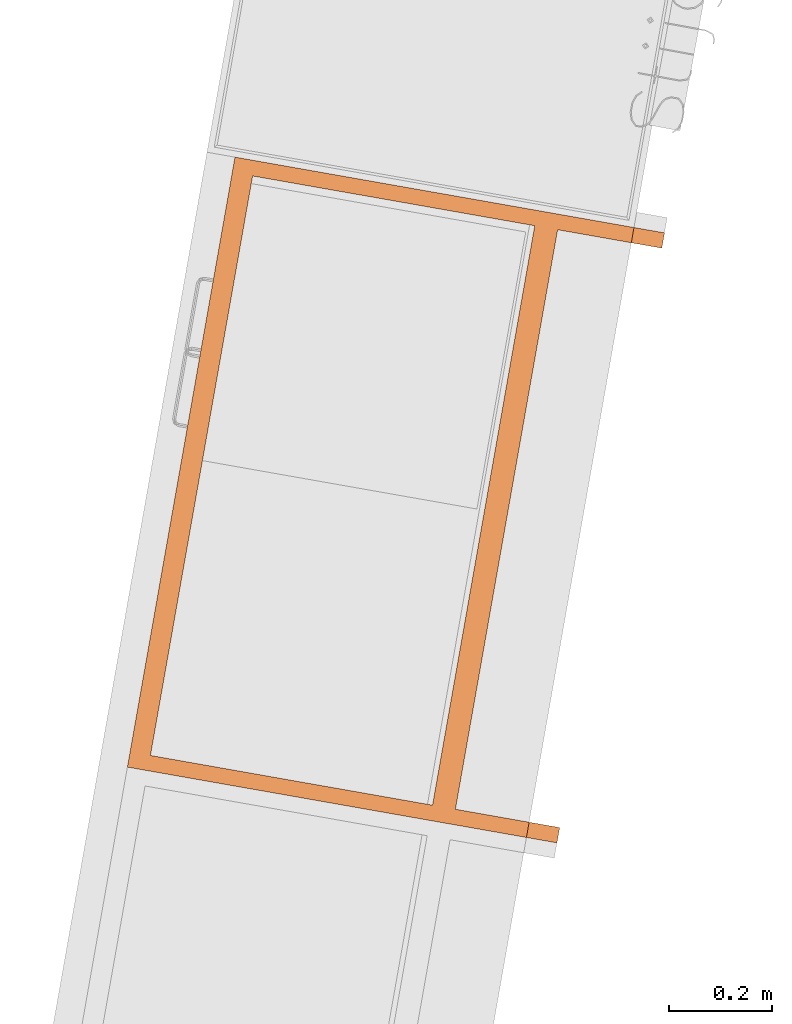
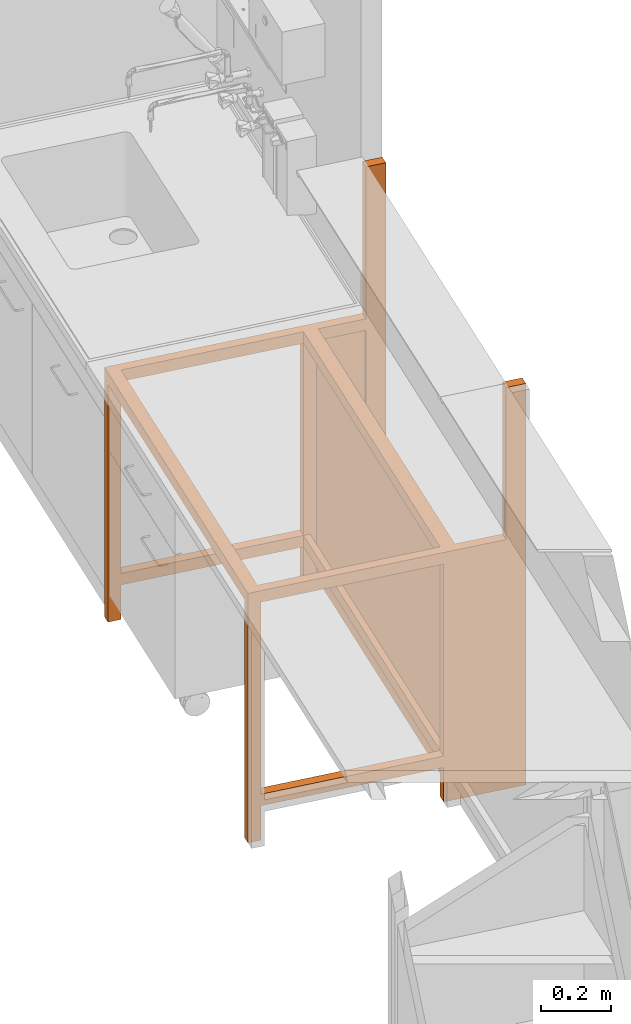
# One storey, part 29 of 43: 1 proxy.
"""IFC2X3 building model written with IfcOpenShell, lengths in metres."""

from ifc_helpers import new_model, entity, si_unit, converted_unit, derived_unit, direction, frame, origin, place, context, subcontext, project, spatial, faceted_brep, source, transform, mapped, material, material_list, type_object, type_shapes, element, save


model = new_model("IFC2X3")

# Units and contexts
model_context = context("Model", 3, precision=1e-05, world=origin(), true_north=direction((6.12303176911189e-17, 1.0)))
body_context = subcontext(model_context, "Body", "Model", "MODEL_VIEW")
ifc_project = project(units=[si_unit("LENGTHUNIT", "METRE"), si_unit("AREAUNIT", "SQUARE_METRE"), si_unit("VOLUMEUNIT", "CUBIC_METRE"), converted_unit("PLANEANGLEUNIT", "DEGREE", entity("IfcRatioMeasure", 0.0174532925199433), si_unit("PLANEANGLEUNIT", "RADIAN"), dimensions=[0, 0, 0, 0, 0, 0, 0]), si_unit("MASSUNIT", "GRAM", prefix="KILO"), derived_unit("MASSDENSITYUNIT", [(si_unit("MASSUNIT", "GRAM", prefix="KILO"), 1), (si_unit("LENGTHUNIT", "METRE"), -3)]), derived_unit("MOMENTOFINERTIAUNIT", [(si_unit("LENGTHUNIT", "METRE"), 4)]), si_unit("TIMEUNIT", "SECOND"), si_unit("FREQUENCYUNIT", "HERTZ"), si_unit("THERMODYNAMICTEMPERATUREUNIT", "DEGREE_CELSIUS"), derived_unit("THERMALTRANSMITTANCEUNIT", [(si_unit("MASSUNIT", "GRAM", prefix="KILO"), 1), (si_unit("THERMODYNAMICTEMPERATUREUNIT", "KELVIN"), -1), (si_unit("TIMEUNIT", "SECOND"), -3)]), derived_unit("VOLUMETRICFLOWRATEUNIT", [(si_unit("LENGTHUNIT", "METRE"), 3), (si_unit("TIMEUNIT", "SECOND"), -1)]), si_unit("ELECTRICCURRENTUNIT", "AMPERE"), si_unit("ELECTRICVOLTAGEUNIT", "VOLT"), si_unit("POWERUNIT", "WATT"), si_unit("FORCEUNIT", "NEWTON", prefix="KILO"), si_unit("ILLUMINANCEUNIT", "LUX"), si_unit("LUMINOUSFLUXUNIT", "LUMEN"), si_unit("LUMINOUSINTENSITYUNIT", "CANDELA"), derived_unit("USERDEFINED", [(si_unit("MASSUNIT", "GRAM", prefix="KILO"), -1), (si_unit("LENGTHUNIT", "METRE"), -2), (si_unit("TIMEUNIT", "SECOND"), 3), (si_unit("LUMINOUSFLUXUNIT", "LUMEN"), 1)]), derived_unit("LINEARVELOCITYUNIT", [(si_unit("LENGTHUNIT", "METRE"), 1), (si_unit("TIMEUNIT", "SECOND"), -1)]), si_unit("PRESSUREUNIT", "PASCAL"), derived_unit("USERDEFINED", [(si_unit("LENGTHUNIT", "METRE"), -2), (si_unit("MASSUNIT", "GRAM", prefix="KILO"), 1), (si_unit("TIMEUNIT", "SECOND"), -2)]), derived_unit("LINEARFORCEUNIT", [(si_unit("MASSUNIT", "GRAM", prefix="KILO"), 1), (si_unit("LENGTHUNIT", "METRE"), 1), (si_unit("TIMEUNIT", "SECOND"), -2), (si_unit("LENGTHUNIT", "METRE"), -1)]), derived_unit("PLANARFORCEUNIT", [(si_unit("MASSUNIT", "GRAM", prefix="KILO"), 1), (si_unit("LENGTHUNIT", "METRE"), 1), (si_unit("TIMEUNIT", "SECOND"), -2), (si_unit("LENGTHUNIT", "METRE"), -2)])], contexts=[model_context])

# Site, building, storey
site_placement = place(None, origin())
site = spatial("IfcSite", under=ifc_project, at=site_placement, Name="Default", CompositionType="ELEMENT")
building_placement = place(site_placement, origin())
building = spatial("IfcBuilding", under=site, at=building_placement, CompositionType="ELEMENT")
storey_placement = place(building_placement, frame((0.0, 0.0, 3.0)))
storey = spatial("IfcBuildingStorey", under=building, at=storey_placement, Name="01 OG", CompositionType="ELEMENT", Elevation=3.0)

# Proxy
ifc_material_1 = material(Name="dh_EZ blau")
ifc_material_2 = material(Name="Stopper")
ifc_material_3 = material(Name="dh_Weiß")
ifc_material_list_1 = material_list([ifc_material_1, ifc_material_2, ifc_material_3])
ifc_material_4 = material(Name="<Unnamed>")
ifc_material_list_2 = material_list([ifc_material_3, ifc_material_4, ifc_material_1])
building_element_proxy_type = type_object("IfcBuildingElementProxyType", Name="dh_Energiezelle ST:EZ_ST120 ohne WHS WHA", PredefinedType="NOTDEFINED", material=ifc_material_list_2)
shared_shape = source(origin(), body_context, "Body", "Brep", [
    faceted_brep([(0.57, 0.0599999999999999, 1.4), (0.57, 0.0, 1.4), (0.6, 0.0, 1.4), (0.6, 0.0599999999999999, 1.4), (0.57, 0.0599999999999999, 0.0), (0.57, 0.0, 0.0), (0.6, 0.0, 0.0), (0.6, 0.0599999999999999, 0.0)], [[[0, 1, 2, 3]], [[1, 0, 4, 5]], [[2, 1, 5, 6]], [[3, 2, 6, 7]], [[0, 3, 7, 4]], [[4, 7, 6, 5]]]),
    faceted_brep([(-0.57, 0.0600000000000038, 0.0), (-0.57, 0.0, 0.0), (-0.6, 0.0, 0.0), (-0.6, 0.0600000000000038, 0.0), (-0.6, 0.0600000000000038, 1.4), (-0.57, 0.0600000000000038, 1.4), (-0.6, 0.0, 1.4), (-0.57, 0.0, 1.4)], [[[0, 1, 2, 3]], [[4, 5, 0, 3]], [[6, 4, 3, 2]], [[7, 6, 2, 1]], [[5, 7, 1, 0]], [[5, 4, 6, 7]]]),
    faceted_brep([(-0.599999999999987, -0.150000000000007, 0.01), (-0.599999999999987, -0.190000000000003, 0.01), (-0.570000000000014, -0.190000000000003, 0.01), (-0.570000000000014, -0.150000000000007, 0.01), (-0.599999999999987, -0.150000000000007, 0.0), (-0.599999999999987, -0.190000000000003, 0.0), (-0.570000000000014, -0.190000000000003, 0.0), (-0.570000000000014, -0.150000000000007, 0.0)], [[[0, 1, 2, 3]], [[1, 0, 4, 5]], [[2, 1, 5, 6]], [[3, 2, 6, 7]], [[0, 3, 7, 4]], [[4, 7, 6, 5]]]),
    faceted_brep([(-0.599999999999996, -0.745000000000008, 0.0), (-0.570000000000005, -0.745000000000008, 0.0), (-0.570000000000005, -0.785000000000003, 0.0), (-0.599999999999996, -0.785000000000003, 0.0), (-0.599999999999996, -0.785000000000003, 0.01), (-0.599999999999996, -0.745000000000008, 0.01), (-0.570000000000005, -0.785000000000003, 0.01), (-0.570000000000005, -0.745000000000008, 0.01)], [[[0, 1, 2, 3]], [[4, 5, 0, 3]], [[6, 4, 3, 2]], [[7, 6, 2, 1]], [[5, 7, 1, 0]], [[5, 4, 6, 7]]]),
    faceted_brep([(0.569999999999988, -0.190000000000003, 0.01), (0.569999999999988, -0.150000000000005, 0.01), (0.569999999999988, -0.150000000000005, 0.0), (0.569999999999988, -0.190000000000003, 0.0), (0.600000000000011, -0.190000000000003, 0.01), (0.600000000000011, -0.190000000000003, 0.0), (0.600000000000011, -0.150000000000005, 0.01), (0.600000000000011, -0.150000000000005, 0.0)], [[[0, 1, 2, 3]], [[4, 0, 3, 5]], [[6, 4, 5, 7]], [[1, 6, 7, 2]], [[2, 7, 5, 3]], [[1, 0, 4, 6]]]),
    faceted_brep([(0.569999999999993, -0.784999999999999, 0.01), (0.569999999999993, -0.744999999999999, 0.01), (0.569999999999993, -0.744999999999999, 0.0), (0.569999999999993, -0.784999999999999, 0.0), (0.600000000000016, -0.784999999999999, 0.01), (0.600000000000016, -0.784999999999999, 0.0), (0.600000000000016, -0.744999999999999, 0.01), (0.600000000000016, -0.744999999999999, 0.0)], [[[0, 1, 2, 3]], [[4, 0, 3, 5]], [[6, 4, 5, 7]], [[1, 6, 7, 2]], [[2, 7, 5, 3]], [[1, 0, 4, 6]]]),
    faceted_brep([(0.569999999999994, -0.150000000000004, 0.87), (0.569999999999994, -0.145000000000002, 0.87), (-0.570000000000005, -0.145000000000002, 0.87), (-0.570000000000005, -0.150000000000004, 0.87), (0.569999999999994, -0.150000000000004, 0.0), (-0.570000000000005, -0.150000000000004, 0.0), (-0.570000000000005, -0.145000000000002, 0.0), (0.569999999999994, -0.145000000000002, 0.0)], [[[0, 1, 2, 3]], [[4, 5, 6, 7]], [[0, 3, 5, 4]], [[3, 2, 6, 5]], [[2, 1, 7, 6]], [[1, 0, 4, 7]]]),
    faceted_brep([(-0.6, 0.0, 0.830000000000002), (-0.6, -0.150000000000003, 0.830000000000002), (-0.58, -0.150000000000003, 0.830000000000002), (-0.58, 0.0, 0.830000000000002), (-0.6, 0.0, 0.0), (-0.58, 0.0, 0.0), (-0.58, -0.150000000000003, 0.0), (-0.6, -0.150000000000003, 0.0)], [[[0, 1, 2, 3]], [[4, 5, 6, 7]], [[1, 0, 4, 7]], [[2, 1, 7, 6]], [[3, 2, 6, 5]], [[0, 3, 5, 4]]]),
    faceted_brep([(0.58, -0.150000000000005, 0.830000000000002), (0.58, 0.0, 0.830000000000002), (0.58, 0.0, 0.0), (0.58, -0.150000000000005, 0.0), (0.6, -0.150000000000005, 0.830000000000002), (0.6, -0.150000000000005, 0.0), (0.6, 0.0, 0.830000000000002), (0.6, 0.0, 0.0)], [[[0, 1, 2, 3]], [[4, 0, 3, 5]], [[6, 4, 5, 7]], [[1, 6, 7, 2]], [[2, 7, 5, 3]], [[1, 0, 4, 6]]]),
    faceted_brep([(-0.570000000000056, 0.0, 0.870000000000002), (-0.60000000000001, 0.0, 0.870000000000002), (-0.600000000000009, -0.784999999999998, 0.870000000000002), (0.599999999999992, -0.784999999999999, 0.869999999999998), (0.59999999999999, 0.0, 0.869999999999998), (0.569999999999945, 0.0, 0.869999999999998), (0.569999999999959, -0.150000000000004, 0.869999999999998), (-0.570000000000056, -0.150000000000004, 0.870000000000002), (-0.570000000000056, -0.744999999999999, 0.870000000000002), (-0.570000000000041, -0.190000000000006, 0.870000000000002), (0.569999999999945, -0.190000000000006, 0.869999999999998), (0.569999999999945, -0.744999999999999, 0.869999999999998), (-0.60000000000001, 0.0, 0.830000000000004), (-0.570000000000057, 0.0, 0.830000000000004), (-0.570000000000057, -0.150000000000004, 0.830000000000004), (-0.60000000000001, -0.150000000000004, 0.830000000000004), (-0.600000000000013, -0.150000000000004, 0.0100000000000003), (-0.600000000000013, -0.190000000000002, 0.0100000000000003), (-0.60000000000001, -0.190000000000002, 0.830000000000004), (-0.60000000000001, -0.744999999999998, 0.830000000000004), (-0.600000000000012, -0.744999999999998, 0.0100000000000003), (-0.600000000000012, -0.784999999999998, 0.0100000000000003), (0.569999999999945, 0.0, 0.83), (0.569999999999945, -0.150000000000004, 0.83), (0.59999999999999, 0.0, 0.83), (0.599999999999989, -0.784999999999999, 0.00999999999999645), (0.599999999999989, -0.744999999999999, 0.00999999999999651), (0.59999999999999, -0.744999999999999, 0.83), (0.59999999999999, -0.190000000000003, 0.83), (0.599999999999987, -0.190000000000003, 0.00999999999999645), (0.599999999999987, -0.150000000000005, 0.00999999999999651), (0.59999999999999, -0.150000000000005, 0.83), (-0.570000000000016, -0.150000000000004, 0.0100000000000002), (-0.570000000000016, -0.190000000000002, 0.0100000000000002), (-0.570000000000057, -0.190000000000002, 0.830000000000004), (0.569999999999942, -0.150000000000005, 0.00999999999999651), (0.569999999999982, -0.190000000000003, 0.00999999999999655), (0.569999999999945, -0.190000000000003, 0.83), (-0.570000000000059, -0.744999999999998, 0.0100000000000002), (-0.570000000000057, -0.744999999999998, 0.830000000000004), (-0.570000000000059, -0.784999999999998, 0.0100000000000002), (-0.570000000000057, -0.784999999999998, 0.830000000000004), (0.569999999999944, -0.784999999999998, 0.83), (0.569999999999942, -0.784999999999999, 0.00999999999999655), (0.569999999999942, -0.744999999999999, 0.00999999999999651), (0.569999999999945, -0.744999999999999, 0.83)], [[[0, 1, 2, 3, 4, 5, 6, 7], [8, 9, 10, 11]], [[12, 13, 14, 15]], [[1, 0, 13, 12]], [[1, 12, 15, 16, 17, 18, 19, 20, 21, 2]], [[13, 0, 7, 14]], [[5, 22, 23, 6]], [[24, 4, 3, 25, 26, 27, 28, 29, 30, 31]], [[5, 4, 24, 22]], [[32, 33, 17, 16]], [[32, 16, 15, 14]], [[17, 33, 34, 18]], [[30, 35, 23, 31]], [[36, 29, 28, 37]], [[38, 20, 19, 39]], [[3, 2, 21, 40, 41, 42, 43, 25]], [[26, 44, 45, 27]], [[42, 41, 39, 45]], [[7, 6, 23, 14]], [[10, 9, 34, 37]], [[8, 11, 45, 39]], [[37, 34, 14, 23]], [[38, 40, 21, 20]], [[30, 29, 36, 35]], [[26, 25, 43, 44]], [[37, 45, 11, 10]], [[35, 36, 37, 23]], [[44, 43, 42, 45]], [[39, 34, 9, 8]], [[40, 38, 39, 41]], [[33, 32, 14, 34]], [[34, 39, 19, 18]], [[22, 24, 31, 23]], [[28, 27, 45, 37]]]),
    faceted_brep([(0.569999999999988, -0.170000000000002, 0.16), (-0.570000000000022, -0.170000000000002, 0.160000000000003), (-0.570000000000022, -0.190000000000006, 0.160000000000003), (0.569999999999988, -0.190000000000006, 0.16), (0.569999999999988, -0.170000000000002, 0.12), (0.569999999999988, -0.190000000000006, 0.12), (-0.570000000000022, -0.190000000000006, 0.120000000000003), (-0.570000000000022, -0.170000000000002, 0.120000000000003)], [[[0, 1, 2, 3]], [[4, 5, 6, 7]], [[1, 0, 4, 7]], [[2, 1, 7, 6]], [[3, 2, 6, 5]], [[0, 3, 5, 4]]]),
    faceted_brep([(0.569999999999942, -0.190000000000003, 0.16), (0.569999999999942, -0.744999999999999, 0.16), (0.599999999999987, -0.744999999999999, 0.16), (0.599999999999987, -0.190000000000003, 0.16), (0.569999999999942, -0.190000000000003, 0.12), (0.569999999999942, -0.744999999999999, 0.12), (0.599999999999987, -0.744999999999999, 0.12), (0.599999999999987, -0.190000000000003, 0.12)], [[[0, 1, 2, 3]], [[1, 0, 4, 5]], [[2, 1, 5, 6]], [[3, 2, 6, 7]], [[0, 3, 7, 4]], [[4, 7, 6, 5]]]),
    faceted_brep([(-0.570000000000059, -0.190000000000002, 0.120000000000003), (-0.570000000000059, -0.744999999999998, 0.120000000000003), (-0.600000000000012, -0.744999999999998, 0.120000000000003), (-0.600000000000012, -0.190000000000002, 0.120000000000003), (-0.600000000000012, -0.190000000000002, 0.160000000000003), (-0.570000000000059, -0.190000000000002, 0.160000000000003), (-0.600000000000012, -0.744999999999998, 0.160000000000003), (-0.570000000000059, -0.744999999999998, 0.160000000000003)], [[[0, 1, 2, 3]], [[4, 5, 0, 3]], [[6, 4, 3, 2]], [[7, 6, 2, 1]], [[5, 7, 1, 0]], [[5, 4, 6, 7]]]),
])
type_shapes(building_element_proxy_type, [shared_shape])
proxy_placement = place(storey_placement, frame((29.4264224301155, 9.37951147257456, 0.0), z_axis=(0.0, 0.0, 1.0), x_axis=(-0.173648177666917, -0.98480775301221, 0.0)))
element("IfcBuildingElementProxy", 1, at=proxy_placement, inside=storey, type_object=building_element_proxy_type, material=ifc_material_list_1, Name="dh_Energiezelle ST:EZ_ST120 ohne WHS WHA", ObjectType="dh_Energiezelle ST:EZ_ST120 ohne WHS WHA", context=body_context, shape_type="MappedRepresentation", body=[
    mapped(shared_shape, transform((0.0, 0.0, 0.0), scale=1.0)),
])

save(model, "model.ifc")
